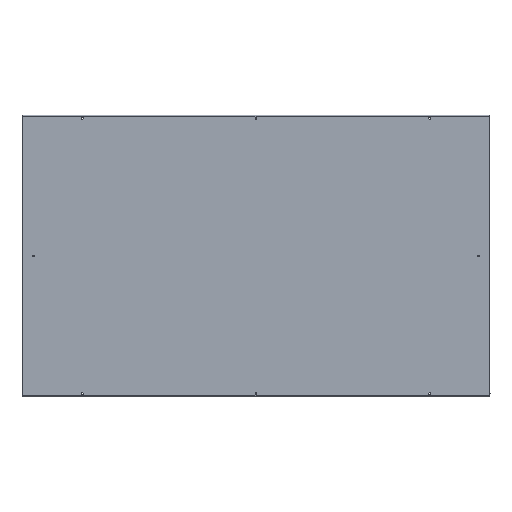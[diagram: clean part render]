
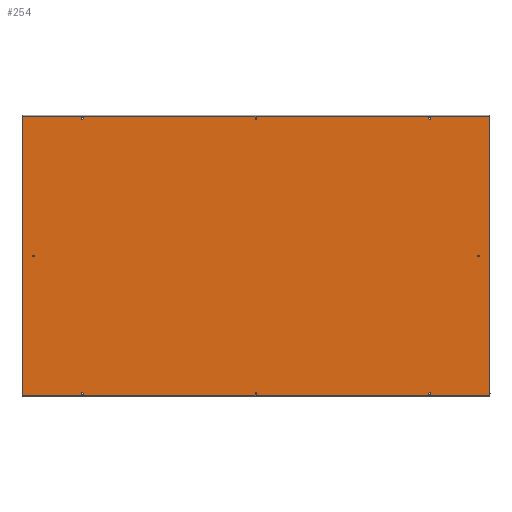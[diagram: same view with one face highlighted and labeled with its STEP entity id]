
A CAD part, left-side view. The second image highlights one B-rep face of the part: STEP entity #254.
In plain terms, the highlighted planar face has unit normal (-1, 0, 0).
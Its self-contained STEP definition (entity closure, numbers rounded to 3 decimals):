
#254=ADVANCED_FACE('',(#1397,#1399,#1401,#1403,#1405,#1407,#1409,#1411,#1413),#1415,
.F.);
#1397=FACE_BOUND('',#1398,.T.);
#1398=EDGE_LOOP('',(#2651,#2652,#2653,#2654));
#1399=FACE_BOUND('',#1400,.T.);
#1400=EDGE_LOOP('',(#2655));
#1401=FACE_BOUND('',#1402,.T.);
#1402=EDGE_LOOP('',(#2656));
#1403=FACE_BOUND('',#1404,.T.);
#1404=EDGE_LOOP('',(#2657));
#1405=FACE_BOUND('',#1406,.T.);
#1406=EDGE_LOOP('',(#2658));
#1407=FACE_BOUND('',#1408,.T.);
#1408=EDGE_LOOP('',(#2659));
#1409=FACE_BOUND('',#1410,.T.);
#1410=EDGE_LOOP('',(#2660));
#1411=FACE_BOUND('',#1412,.T.);
#1412=EDGE_LOOP('',(#2661));
#1413=FACE_BOUND('',#1414,.T.);
#1414=EDGE_LOOP('',(#2662));
#1415=PLANE('',#1416);
#1416=AXIS2_PLACEMENT_3D('',#1417,#1418,#1419);
#1417=CARTESIAN_POINT('',(0.,0.,0.));
#1418=DIRECTION('',(1.,0.,0.));
#1419=DIRECTION('',(0.,0.,-1.));
#2651=ORIENTED_EDGE('',*,*,#3169,.T.);
#2652=ORIENTED_EDGE('',*,*,#3170,.T.);
#2653=ORIENTED_EDGE('',*,*,#3171,.T.);
#2654=ORIENTED_EDGE('',*,*,#3172,.T.);
#2655=ORIENTED_EDGE('',*,*,#3150,.F.);
#2656=ORIENTED_EDGE('',*,*,#3152,.F.);
#2657=ORIENTED_EDGE('',*,*,#3154,.F.);
#2658=ORIENTED_EDGE('',*,*,#3156,.F.);
#2659=ORIENTED_EDGE('',*,*,#3158,.F.);
#2660=ORIENTED_EDGE('',*,*,#3160,.F.);
#2661=ORIENTED_EDGE('',*,*,#3162,.F.);
#2662=ORIENTED_EDGE('',*,*,#3164,.F.);
#3150=EDGE_CURVE('',#3435,#3435,#3436,.T.);
#3152=EDGE_CURVE('',#3439,#3439,#3440,.T.);
#3154=EDGE_CURVE('',#3443,#3443,#3444,.T.);
#3156=EDGE_CURVE('',#3447,#3447,#3448,.T.);
#3158=EDGE_CURVE('',#3451,#3451,#3452,.T.);
#3160=EDGE_CURVE('',#3455,#3455,#3456,.T.);
#3162=EDGE_CURVE('',#3459,#3459,#3460,.T.);
#3164=EDGE_CURVE('',#3463,#3463,#3464,.T.);
#3169=EDGE_CURVE('',#3473,#3474,#3475,.T.);
#3170=EDGE_CURVE('',#3474,#3476,#3477,.T.);
#3171=EDGE_CURVE('',#3476,#3478,#3479,.T.);
#3172=EDGE_CURVE('',#3478,#3473,#3480,.T.);
#3435=VERTEX_POINT('',#3934);
#3436=CIRCLE('',#3935,3.15);
#3439=VERTEX_POINT('',#3944);
#3440=CIRCLE('',#3945,3.15);
#3443=VERTEX_POINT('',#3954);
#3444=CIRCLE('',#3955,3.15);
#3447=VERTEX_POINT('',#3964);
#3448=CIRCLE('',#3965,3.15);
#3451=VERTEX_POINT('',#3974);
#3452=CIRCLE('',#3975,3.15);
#3455=VERTEX_POINT('',#3984);
#3456=CIRCLE('',#3985,3.15);
#3459=VERTEX_POINT('',#3994);
#3460=CIRCLE('',#3995,3.15);
#3463=VERTEX_POINT('',#4004);
#3464=CIRCLE('',#4005,3.15);
#3473=VERTEX_POINT('',#4025);
#3474=VERTEX_POINT('',#4026);
#3475=LINE('',#4027,#4028);
#3476=VERTEX_POINT('',#4030);
#3477=LINE('',#4031,#4032);
#3478=VERTEX_POINT('',#4034);
#3479=LINE('',#4035,#4036);
#3480=LINE('',#4038,#4039);
#3934=CARTESIAN_POINT('',(0.,-588.5,469.65));
#3935=AXIS2_PLACEMENT_3D('',#3936,#3937,#3938);
#3936=CARTESIAN_POINT('',(0.,-588.5,466.5));
#3937=DIRECTION('',(-1.,0.,0.));
#3938=DIRECTION('',(0.,0.,-1.));
#3944=CARTESIAN_POINT('',(0.,-588.5,-463.35));
#3945=AXIS2_PLACEMENT_3D('',#3946,#3947,#3948);
#3946=CARTESIAN_POINT('',(0.,-588.5,-466.5));
#3947=DIRECTION('',(-1.,0.,0.));
#3948=DIRECTION('',(0.,0.,-1.));
#3954=CARTESIAN_POINT('',(0.,-753.,3.15));
#3955=AXIS2_PLACEMENT_3D('',#3956,#3957,#3958);
#3956=CARTESIAN_POINT('',(0.,-753.,0.));
#3957=DIRECTION('',(-1.,0.,0.));
#3958=DIRECTION('',(0.,0.,-1.));
#3964=CARTESIAN_POINT('',(0.,588.5,469.65));
#3965=AXIS2_PLACEMENT_3D('',#3966,#3967,#3968);
#3966=CARTESIAN_POINT('',(0.,588.5,466.5));
#3967=DIRECTION('',(-1.,0.,0.));
#3968=DIRECTION('',(0.,0.,-1.));
#3974=CARTESIAN_POINT('',(0.,0.,-463.35));
#3975=AXIS2_PLACEMENT_3D('',#3976,#3977,#3978);
#3976=CARTESIAN_POINT('',(0.,0.,-466.5));
#3977=DIRECTION('',(-1.,0.,0.));
#3978=DIRECTION('',(0.,0.,-1.));
#3984=CARTESIAN_POINT('',(0.,0.,469.65));
#3985=AXIS2_PLACEMENT_3D('',#3986,#3987,#3988);
#3986=CARTESIAN_POINT('',(0.,0.,466.5));
#3987=DIRECTION('',(-1.,0.,0.));
#3988=DIRECTION('',(0.,0.,-1.));
#3994=CARTESIAN_POINT('',(0.,753.,3.15));
#3995=AXIS2_PLACEMENT_3D('',#3996,#3997,#3998);
#3996=CARTESIAN_POINT('',(0.,753.,0.));
#3997=DIRECTION('',(-1.,0.,0.));
#3998=DIRECTION('',(0.,0.,-1.));
#4004=CARTESIAN_POINT('',(0.,588.5,-463.35));
#4005=AXIS2_PLACEMENT_3D('',#4006,#4007,#4008);
#4006=CARTESIAN_POINT('',(0.,588.5,-466.5));
#4007=DIRECTION('',(-1.,0.,0.));
#4008=DIRECTION('',(0.,0.,-1.));
#4025=CARTESIAN_POINT('',(0.,789.8,-473.3));
#4026=CARTESIAN_POINT('',(0.,-789.8,-473.3));
#4027=CARTESIAN_POINT('',(0.,789.8,-473.3));
#4028=VECTOR('',#4029,1.);
#4029=DIRECTION('',(0.,-1.,0.));
#4030=CARTESIAN_POINT('',(0.,-789.8,473.3));
#4031=CARTESIAN_POINT('',(0.,-789.8,-473.3));
#4032=VECTOR('',#4033,1.);
#4033=DIRECTION('',(0.,0.,1.));
#4034=CARTESIAN_POINT('',(0.,789.8,473.3));
#4035=CARTESIAN_POINT('',(0.,-789.8,473.3));
#4036=VECTOR('',#4037,1.);
#4037=DIRECTION('',(0.,1.,0.));
#4038=CARTESIAN_POINT('',(0.,789.8,473.3));
#4039=VECTOR('',#4040,1.);
#4040=DIRECTION('',(0.,0.,-1.));
